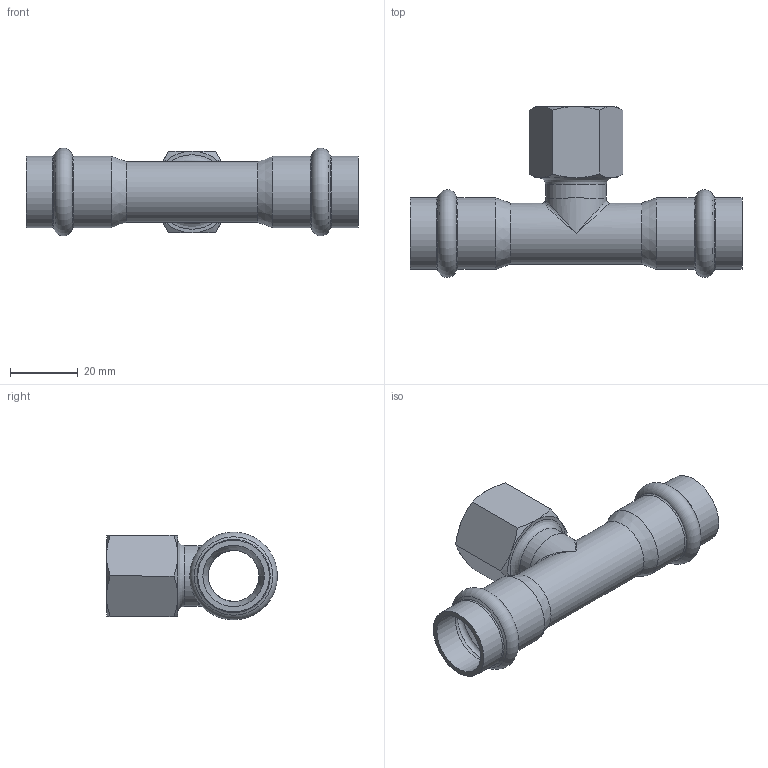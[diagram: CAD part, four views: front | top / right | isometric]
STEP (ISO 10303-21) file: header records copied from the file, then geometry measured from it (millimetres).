
FILE_DESCRIPTION((''),'2;1');
FILE_NAME('G:\Technics\CAD\Bauteile\018\69130G181218(2).stp','2008-01-31T09:24:48',('herberg'),(''),'Autodesk Inventor 2008','Autodesk Inventor 2008','');
FILE_SCHEMA(('AUTOMOTIVE_DESIGN { 1 0 10303 214 1 1 1 1 }'));
Length unit declared in the file: millimetre
Products named in the file (3): 69130G181218(2); LM_6913018(1); IG1812(1)
Assembly tree (2 placements, depth 2):
  69130G181218(2)
    LM_6913018(1)
    IG1812(1)
Bounding box: 98 x 50.45 x 25.9 mm (x, y, z)
Volume: 14545 mm3; surface area: 16403 mm2
Topology: 2 solids, 2 shells, 66 faces, 147 edges, 79 vertices
Faces by surface type: cone 21, bspline 16, cylinder 13, plane 12, torus 4
Full cylindrical faces by diameter (mm): 15 x2, 18 x3, 18.15 x4, 21.15 x4
Entity records: 2518 total; most frequent: CARTESIAN_POINT 1322, DIRECTION 240, ORIENTED_EDGE 184, AXIS2_PLACEMENT_3D 117, EDGE_LOOP 112, EDGE_CURVE 92, VERTEX_POINT 70, FACE_OUTER_BOUND 66
